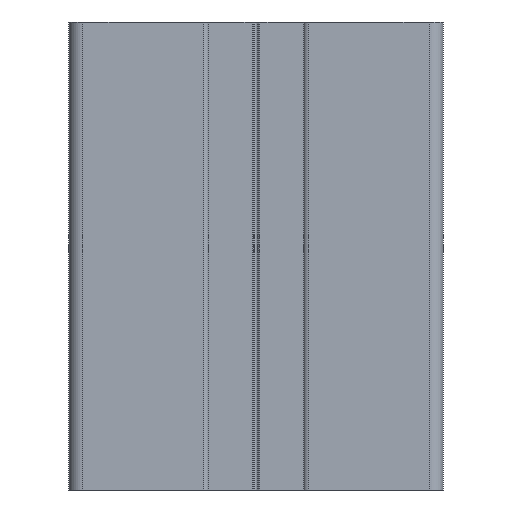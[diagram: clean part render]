
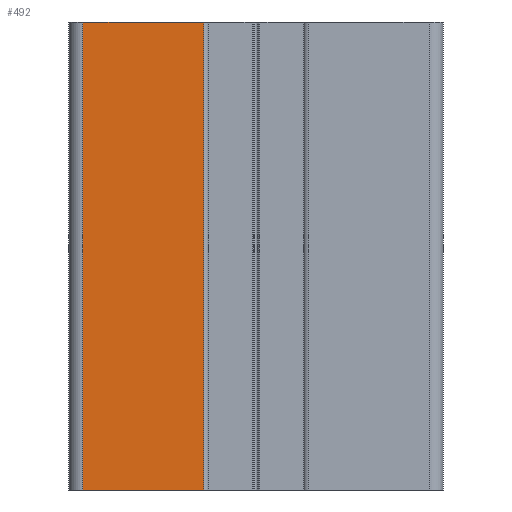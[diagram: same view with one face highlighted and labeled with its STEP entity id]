
A CAD part, front view. The second image highlights one B-rep face of the part: STEP entity #492.
In plain terms, the highlighted planar face has unit normal (0, -1, 0).
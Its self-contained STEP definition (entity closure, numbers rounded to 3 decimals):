
#492=ADVANCED_FACE('',(#1035),#1036,.F.);
#1035=FACE_OUTER_BOUND('',#1616,.T.);
#1036=PLANE('',#1617);
#1616=EDGE_LOOP('',(#3245,#3246,#3247,#3248));
#1617=AXIS2_PLACEMENT_3D('',#3249,#3250,#3251);
#3245=ORIENTED_EDGE('',*,*,#4226,.T.);
#3246=ORIENTED_EDGE('',*,*,#3711,.F.);
#3247=ORIENTED_EDGE('',*,*,#4143,.F.);
#3248=ORIENTED_EDGE('',*,*,#3969,.T.);
#3249=CARTESIAN_POINT('',(1.5,0.,50.0));
#3250=DIRECTION('',(0.0,1.0,0.0));
#3251=DIRECTION('',(0.0,0.0,-1.0));
#3711=EDGE_CURVE('',#4521,#4516,#4523,.T.);
#3969=EDGE_CURVE('',#4950,#4948,#4951,.T.);
#4143=EDGE_CURVE('',#4950,#4521,#5213,.T.);
#4226=EDGE_CURVE('',#4948,#4516,#5326,.T.);
#4516=VERTEX_POINT('',#5677);
#4521=VERTEX_POINT('',#5683);
#4523=LINE('',#5685,#5686);
#4948=VERTEX_POINT('',#6253);
#4950=VERTEX_POINT('',#6255);
#4951=LINE('',#6256,#6257);
#5213=LINE('',#6605,#6606);
#5326=LINE('',#6757,#6758);
#5677=CARTESIAN_POINT('',(14.4,0.,0.0));
#5683=CARTESIAN_POINT('',(14.4,0.,50.0));
#5685=CARTESIAN_POINT('',(14.4,0.,50.0));
#5686=VECTOR('',#7086,1.0);
#6253=CARTESIAN_POINT('',(1.5,0.,0.0));
#6255=CARTESIAN_POINT('',(1.5,0.,50.0));
#6256=CARTESIAN_POINT('',(1.5,0.,50.0));
#6257=VECTOR('',#7400,1.0);
#6605=CARTESIAN_POINT('',(1.5,0.,50.0));
#6606=VECTOR('',#7679,1.0);
#6757=CARTESIAN_POINT('',(1.5,0.,0.0));
#6758=VECTOR('',#7805,1.0);
#7086=DIRECTION('',(0.0,0.0,-1.0));
#7400=DIRECTION('',(0.0,0.0,-1.0));
#7679=DIRECTION('',(1.0,0.0,0.0));
#7805=DIRECTION('',(1.0,0.0,0.0));
